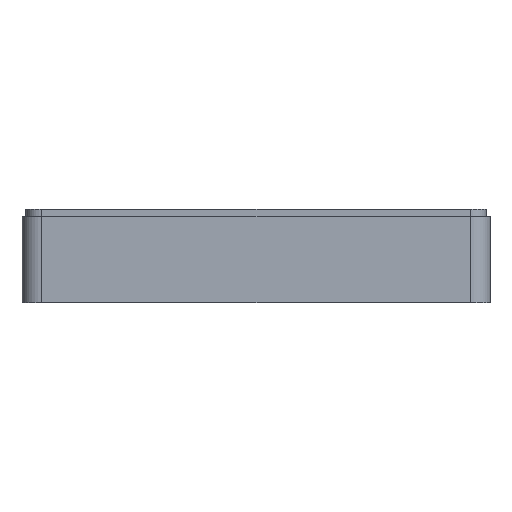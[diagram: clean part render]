
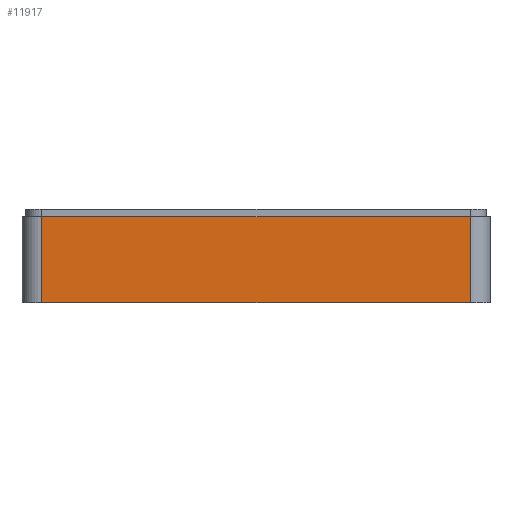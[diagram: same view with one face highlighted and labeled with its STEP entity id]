
A CAD part, left-side view. The second image highlights one B-rep face of the part: STEP entity #11917.
In plain terms, the highlighted planar face has unit normal (-1, 0, 0).
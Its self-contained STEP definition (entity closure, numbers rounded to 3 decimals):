
#9418 = PLANE('',#9419);
#9419 = AXIS2_PLACEMENT_3D('',#9420,#9421,#9422);
#9420 = CARTESIAN_POINT('',(0.,0.,0.));
#9421 = DIRECTION('',(0.,0.,1.));
#9422 = DIRECTION('',(1.,0.,-0.));
#9446 = CYLINDRICAL_SURFACE('',#9447,8.);
#9447 = AXIS2_PLACEMENT_3D('',#9448,#9449,#9450);
#9448 = CARTESIAN_POINT('',(-92.,-87.,0.));
#9449 = DIRECTION('',(0.,0.,1.));
#9450 = DIRECTION('',(0.,-1.,0.));
#9474 = PLANE('',#9475);
#9475 = AXIS2_PLACEMENT_3D('',#9476,#9477,#9478);
#9476 = CARTESIAN_POINT('',(0.,0.,35.));
#9477 = DIRECTION('',(0.,0.,1.));
#9478 = DIRECTION('',(1.,0.,-0.));
#9787 = CYLINDRICAL_SURFACE('',#9788,8.);
#9788 = AXIS2_PLACEMENT_3D('',#9789,#9790,#9791);
#9789 = CARTESIAN_POINT('',(-92.,87.,0.));
#9790 = DIRECTION('',(0.,0.,1.));
#9791 = DIRECTION('',(-0.,1.,0.));
#10728 = VERTEX_POINT('',#10729);
#10729 = CARTESIAN_POINT('',(-100.,87.,0.));
#10751 = EDGE_CURVE('',#10728,#10752,#10754,.T.);
#10752 = VERTEX_POINT('',#10753);
#10753 = CARTESIAN_POINT('',(-100.,-87.,0.));
#10754 = SURFACE_CURVE('',#10755,(#10759,#10766),.PCURVE_S1.);
#10755 = LINE('',#10756,#10757);
#10756 = CARTESIAN_POINT('',(-100.,95.,0.));
#10757 = VECTOR('',#10758,1.);
#10758 = DIRECTION('',(0.,-1.,0.));
#10759 = PCURVE('',#9418,#10760);
#10760 = DEFINITIONAL_REPRESENTATION('',(#10761),#10765);
#10761 = LINE('',#10762,#10763);
#10762 = CARTESIAN_POINT('',(-100.,95.));
#10763 = VECTOR('',#10764,1.);
#10764 = DIRECTION('',(0.,-1.));
#10765 = ( GEOMETRIC_REPRESENTATION_CONTEXT(2) 
PARAMETRIC_REPRESENTATION_CONTEXT() REPRESENTATION_CONTEXT('2D SPACE',''
  ) );
#10766 = PCURVE('',#10767,#10772);
#10767 = PLANE('',#10768);
#10768 = AXIS2_PLACEMENT_3D('',#10769,#10770,#10771);
#10769 = CARTESIAN_POINT('',(-100.,95.,0.));
#10770 = DIRECTION('',(1.,0.,-0.));
#10771 = DIRECTION('',(0.,-1.,0.));
#10772 = DEFINITIONAL_REPRESENTATION('',(#10773),#10777);
#10773 = LINE('',#10774,#10775);
#10774 = CARTESIAN_POINT('',(0.,0.));
#10775 = VECTOR('',#10776,1.);
#10776 = DIRECTION('',(1.,0.));
#10777 = ( GEOMETRIC_REPRESENTATION_CONTEXT(2) 
PARAMETRIC_REPRESENTATION_CONTEXT() REPRESENTATION_CONTEXT('2D SPACE',''
  ) );
#11041 = EDGE_CURVE('',#10752,#11042,#11044,.T.);
#11042 = VERTEX_POINT('',#11043);
#11043 = CARTESIAN_POINT('',(-100.,-87.,35.));
#11044 = SURFACE_CURVE('',#11045,(#11049,#11056),.PCURVE_S1.);
#11045 = LINE('',#11046,#11047);
#11046 = CARTESIAN_POINT('',(-100.,-87.,0.));
#11047 = VECTOR('',#11048,1.);
#11048 = DIRECTION('',(0.,0.,1.));
#11049 = PCURVE('',#9446,#11050);
#11050 = DEFINITIONAL_REPRESENTATION('',(#11051),#11055);
#11051 = LINE('',#11052,#11053);
#11052 = CARTESIAN_POINT('',(-1.571,0.));
#11053 = VECTOR('',#11054,1.);
#11054 = DIRECTION('',(-0.,1.));
#11055 = ( GEOMETRIC_REPRESENTATION_CONTEXT(2) 
PARAMETRIC_REPRESENTATION_CONTEXT() REPRESENTATION_CONTEXT('2D SPACE',''
  ) );
#11056 = PCURVE('',#10767,#11057);
#11057 = DEFINITIONAL_REPRESENTATION('',(#11058),#11062);
#11058 = LINE('',#11059,#11060);
#11059 = CARTESIAN_POINT('',(182.,0.));
#11060 = VECTOR('',#11061,1.);
#11061 = DIRECTION('',(0.,-1.));
#11062 = ( GEOMETRIC_REPRESENTATION_CONTEXT(2) 
PARAMETRIC_REPRESENTATION_CONTEXT() REPRESENTATION_CONTEXT('2D SPACE',''
  ) );
#11193 = VERTEX_POINT('',#11194);
#11194 = CARTESIAN_POINT('',(-100.,87.,35.));
#11216 = EDGE_CURVE('',#11193,#11042,#11217,.T.);
#11217 = SURFACE_CURVE('',#11218,(#11222,#11229),.PCURVE_S1.);
#11218 = LINE('',#11219,#11220);
#11219 = CARTESIAN_POINT('',(-100.,95.,35.));
#11220 = VECTOR('',#11221,1.);
#11221 = DIRECTION('',(0.,-1.,0.));
#11222 = PCURVE('',#9474,#11223);
#11223 = DEFINITIONAL_REPRESENTATION('',(#11224),#11228);
#11224 = LINE('',#11225,#11226);
#11225 = CARTESIAN_POINT('',(-100.,95.));
#11226 = VECTOR('',#11227,1.);
#11227 = DIRECTION('',(0.,-1.));
#11228 = ( GEOMETRIC_REPRESENTATION_CONTEXT(2) 
PARAMETRIC_REPRESENTATION_CONTEXT() REPRESENTATION_CONTEXT('2D SPACE',''
  ) );
#11229 = PCURVE('',#10767,#11230);
#11230 = DEFINITIONAL_REPRESENTATION('',(#11231),#11235);
#11231 = LINE('',#11232,#11233);
#11232 = CARTESIAN_POINT('',(0.,-35.));
#11233 = VECTOR('',#11234,1.);
#11234 = DIRECTION('',(1.,0.));
#11235 = ( GEOMETRIC_REPRESENTATION_CONTEXT(2) 
PARAMETRIC_REPRESENTATION_CONTEXT() REPRESENTATION_CONTEXT('2D SPACE',''
  ) );
#11639 = EDGE_CURVE('',#10728,#11193,#11640,.T.);
#11640 = SURFACE_CURVE('',#11641,(#11645,#11652),.PCURVE_S1.);
#11641 = LINE('',#11642,#11643);
#11642 = CARTESIAN_POINT('',(-100.,87.,0.));
#11643 = VECTOR('',#11644,1.);
#11644 = DIRECTION('',(0.,0.,1.));
#11645 = PCURVE('',#9787,#11646);
#11646 = DEFINITIONAL_REPRESENTATION('',(#11647),#11651);
#11647 = LINE('',#11648,#11649);
#11648 = CARTESIAN_POINT('',(1.571,0.));
#11649 = VECTOR('',#11650,1.);
#11650 = DIRECTION('',(0.,1.));
#11651 = ( GEOMETRIC_REPRESENTATION_CONTEXT(2) 
PARAMETRIC_REPRESENTATION_CONTEXT() REPRESENTATION_CONTEXT('2D SPACE',''
  ) );
#11652 = PCURVE('',#10767,#11653);
#11653 = DEFINITIONAL_REPRESENTATION('',(#11654),#11658);
#11654 = LINE('',#11655,#11656);
#11655 = CARTESIAN_POINT('',(8.,0.));
#11656 = VECTOR('',#11657,1.);
#11657 = DIRECTION('',(0.,-1.));
#11658 = ( GEOMETRIC_REPRESENTATION_CONTEXT(2) 
PARAMETRIC_REPRESENTATION_CONTEXT() REPRESENTATION_CONTEXT('2D SPACE',''
  ) );
#11917 = ADVANCED_FACE('',(#11918),#10767,.F.);
#11918 = FACE_BOUND('',#11919,.F.);
#11919 = EDGE_LOOP('',(#11920,#11921,#11922,#11923));
#11920 = ORIENTED_EDGE('',*,*,#10751,.F.);
#11921 = ORIENTED_EDGE('',*,*,#11639,.T.);
#11922 = ORIENTED_EDGE('',*,*,#11216,.T.);
#11923 = ORIENTED_EDGE('',*,*,#11041,.F.);
